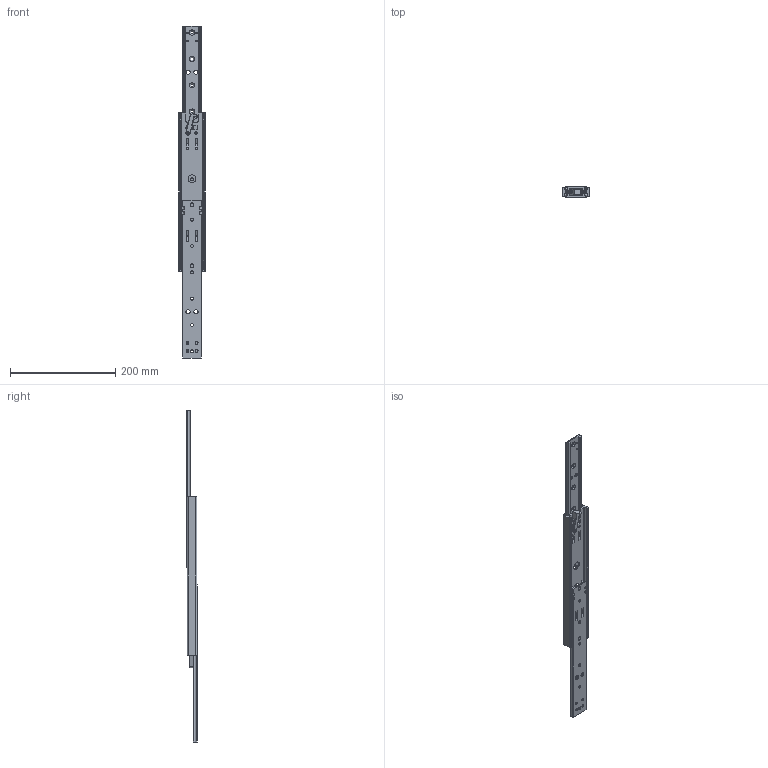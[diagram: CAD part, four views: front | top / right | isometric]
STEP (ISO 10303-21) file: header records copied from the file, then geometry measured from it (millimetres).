
FILE_DESCRIPTION (( 'STEP AP203' ), '1' );
FILE_NAME ('61_12285_02-open.STEP', '2022-03-25T09:49:04', ( '' ), ( '' ), 'SwSTEP 2.0', 'SolidWorks 2021', '' );
FILE_SCHEMA (( 'CONFIG_CONTROL_DESIGN' ));
Length unit declared in the file: millimetre
Products named in the file (12): 61_12280_02_Beam Assembled - Stop Raises ; 301_000_008_Fitted; 61_12279_02; 61_12285_02-open; 61_12719; 370_002_070; 61_12282; 61_13331_Pin Fitted; 400_000_004; 61_12278_02; 61_12275; 61_12274
Assembly tree (28 placements, depth 2):
  61_12285_02-open
    61_12279_02
    61_12280_02_Beam Assembled - Stop Raises   x2
    61_13331_Pin Fitted  x4
    61_12282
    301_000_008_Fitted  x2
    61_12275
    61_12274
    370_002_070  x2
    61_12719  x2
    400_000_004  x8
    61_12278_02  x4
Bounding box: 50.7 x 19.75 x 630 mm (x, y, z)
Volume: 173960.5 mm3; surface area: 122117.4 mm2
Topology: 28 solids, 28 shells, 1084 faces, 2904 edges, 1795 vertices
Faces by surface type: cylinder 516, plane 269, torus 93, sphere 89, cone 72, bspline 45
Entity records: 26404 total; most frequent: CARTESIAN_POINT 6502, DIRECTION 3960, ORIENTED_EDGE 3786, EDGE_CURVE 1893, AXIS2_PLACEMENT_3D 1562, VERTEX_POINT 1164, EDGE_LOOP 843, LINE 836
